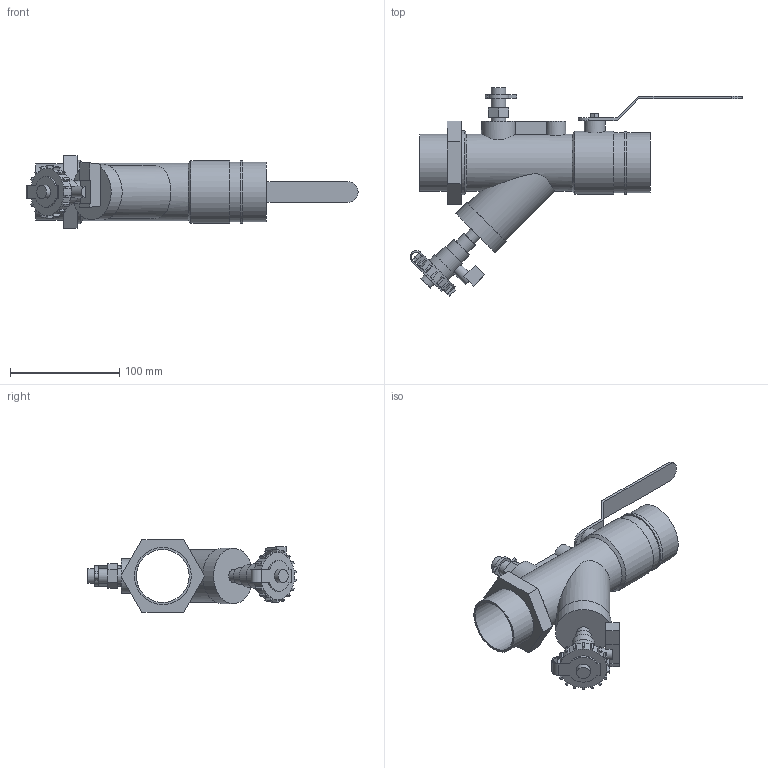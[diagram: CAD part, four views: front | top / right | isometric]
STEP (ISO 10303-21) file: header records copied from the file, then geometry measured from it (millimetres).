
FILE_DESCRIPTION(/* description */ ('VIC Y-STRAINER/BALL SERIES 78Y (FPT)','CAx-IF Rec.Pracs.---Representation and Presentation of Product Manufacturing Information (PMI)---4.0---2014-10-13'),/* implementation_level */ '2;1');
FILE_NAME(/* name */ 'C:\Users\kkamble\Desktop\extraction\OldVersions\Victaulic_IPS_Valve Ball Y Strainer Combination_Series 78Y (FPT)\Victaulic_IPS_Valve Ball Y Strainer Combination_Series 78Y (FPT)_01.5x01.5 (40x40).stp',/* time_stamp */ '2020-10-19T10:39:37+05:00',/* author */ ('kkamble'),/* organization */ ('Victaulic'),/* preprocessor_version */ 'ST-DEVELOPER v17.2',/* originating_system */ 'Autodesk Inventor 2019',/* authorisation */ '');
FILE_SCHEMA (('AP242_MANAGED_MODEL_BASED_3D_ENGINEERING_MIM_LF { 1 0 10303 442 1 1 4 }'));
Length unit declared in the file: inch
Products named in the file (1): 78Y-1.5x1.5
Bounding box: 303.43 x 190.56 x 66.04 mm (x, y, z)
Volume: 216195.1 mm3; surface area: 118127.4 mm2
Topology: 2 solids, 3 shells, 191 faces, 513 edges, 348 vertices
Faces by surface type: plane 132, cylinder 57, cone 2
Full cylindrical faces by diameter (mm): 10.16 x1, 11.887 x1, 12.565 x1, 12.7 x1, 13.462 x5, 15.24 x1, 19.05 x1, 20.32 x1, 22.86 x1, 25.4 x1, 27.94 x1, 41.402 x1, 43.18 x1, 48.26 x2, 50.8 x1, 52.019 x1, 52.324 x1, 54.61 x2, 57.15 x1, 57.404 x1, 58.42 x1
Entity records: 6633 total; most frequent: CARTESIAN_POINT 1459, DIRECTION 1071, ORIENTED_EDGE 1026, EDGE_CURVE 513, AXIS2_PLACEMENT_3D 372, VERTEX_POINT 348, LINE 327, VECTOR 327
